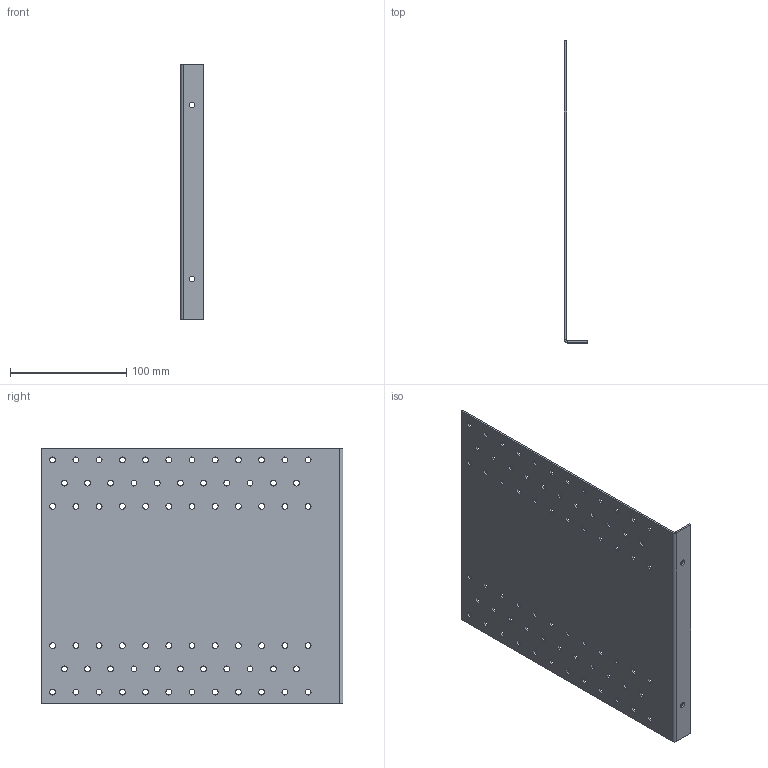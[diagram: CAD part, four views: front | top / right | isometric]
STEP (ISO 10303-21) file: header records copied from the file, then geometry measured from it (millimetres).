
FILE_DESCRIPTION (( 'STEP AP203' ), '1' );
FILE_NAME ('226.STEP', '2020-04-17T13:09:04', ( '' ), ( '' ), 'SwSTEP 2.0', 'SolidWorks 2013', '' );
FILE_SCHEMA (( 'CONFIG_CONTROL_DESIGN' ));
Length unit declared in the file: millimetre
Products named in the file (1): 226
Bounding box: 20 x 260 x 220 mm (x, y, z)
Volume: 119165.5 mm3; surface area: 123416.5 mm2
Topology: 1 solids, 1 shells, 158 faces, 460 edges, 304 vertices
Faces by surface type: cylinder 146, plane 12
Entity records: 5757 total; most frequent: DIRECTION 1070, CARTESIAN_POINT 923, ORIENTED_EDGE 920, EDGE_CURVE 460, AXIS2_PLACEMENT_3D 451, VERTEX_POINT 304, EDGE_LOOP 302, CIRCLE 292
